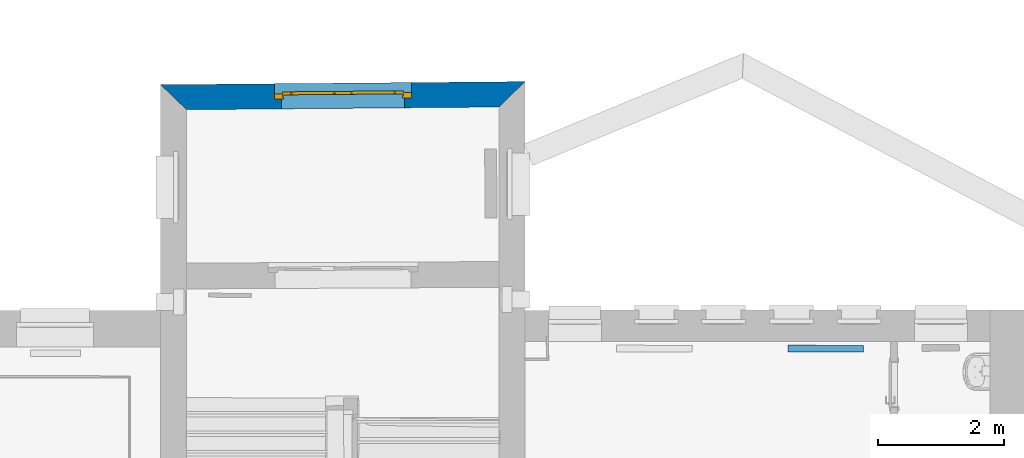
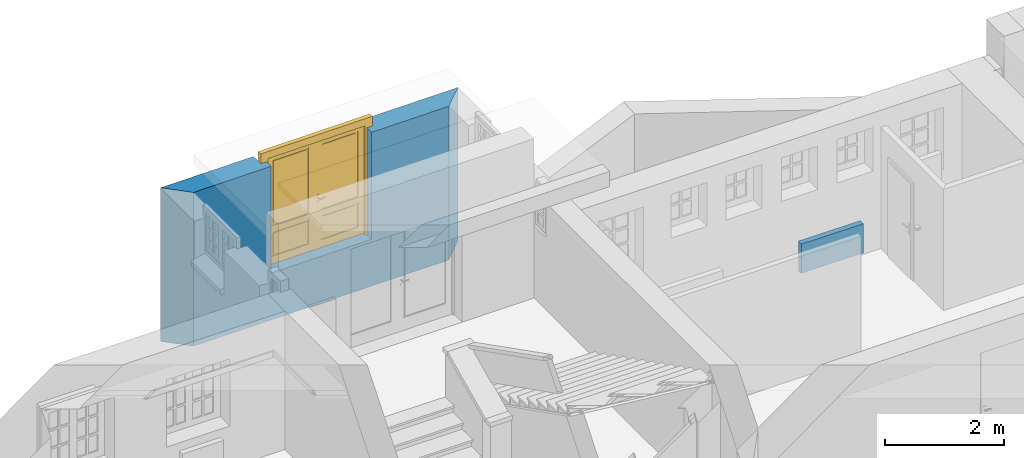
# One storey, part 45 of 196: 2 walls, 1 door, 1 opening.
"""IFC2X3 building model written with IfcOpenShell, lengths in metres."""

from ifc_helpers import new_model, entity, si_unit, converted_unit, derived_unit, money_unit, direction, frame, origin_with_axes, origin_2d_with_axis, place, context, subcontext, project, spatial, polyline, rectangle, outline, extrude, open_shell, faceted_brep, surface_model, source, transform, mapped, material, layer, layer_set, layer_usage, type_object, element, fill, save


model = new_model("IFC2X3")

# Units and contexts
model_context = context("Model", 3, precision=1e-05, world=origin_with_axes(), true_north=direction((0.0, 1.0)))
body_context = subcontext(model_context, "Body", "Model", "MODEL_VIEW")
ifc_project = project(units=[si_unit("LENGTHUNIT", "METRE"), si_unit("AREAUNIT", "SQUARE_METRE"), si_unit("VOLUMEUNIT", "CUBIC_METRE"), converted_unit("PLANEANGLEUNIT", "DEGREE", entity("IfcPlaneAngleMeasure", 0.0174532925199), si_unit("PLANEANGLEUNIT", "RADIAN"), dimensions=[0, 0, 0, 0, 0, 0, 0]), money_unit("EUR"), converted_unit("TIMEUNIT", "Year", entity("IfcTimeMeasure", 31556926.0), si_unit("TIMEUNIT", "SECOND"), dimensions=[0, 0, 1, 0, 0, 0, 0]), si_unit("MASSUNIT", "GRAM", prefix="KILO"), si_unit("THERMODYNAMICTEMPERATUREUNIT", "DEGREE_CELSIUS"), si_unit("LUMINOUSINTENSITYUNIT", "LUMEN"), si_unit("ENERGYUNIT", "JOULE", prefix="MEGA"), derived_unit("THERMALCONDUCTANCEUNIT", [(si_unit("POWERUNIT", "WATT"), 1), (si_unit("LENGTHUNIT", "METRE"), -1), (si_unit("THERMODYNAMICTEMPERATUREUNIT", "KELVIN"), -1)]), derived_unit("SPECIFICHEATCAPACITYUNIT", [(si_unit("ENERGYUNIT", "JOULE"), 1), (si_unit("MASSUNIT", "GRAM", prefix="KILO"), -1), (si_unit("THERMODYNAMICTEMPERATUREUNIT", "KELVIN"), -1)]), derived_unit("MASSDENSITYUNIT", [(si_unit("MASSUNIT", "GRAM", prefix="KILO"), 1), (si_unit("VOLUMEUNIT", "CUBIC_METRE"), -1)])], contexts=[model_context])

# Site, building, storey
site_placement = place(None, origin_with_axes())
site = spatial("IfcSite", under=ifc_project, at=site_placement, Name="Gelände", CompositionType="ELEMENT")
building_placement = place(site_placement, origin_with_axes())
building = spatial("IfcBuilding", under=site, at=building_placement, Name="Gebäude", CompositionType="ELEMENT")
storey_placement = place(building_placement, frame((0.0, 0.0, -3.0), z_axis=(0.0, 0.0, 1.0), x_axis=(1.0, 0.0, 0.0)))
storey = spatial("IfcBuildingStorey", under=building, at=storey_placement, Name="KELLERGESCHOSS", CompositionType="ELEMENT", Elevation=-3.0)

# Wall, opening, door
ifc_material_1 = material(Name="05_ALLGEMEIN - TRAGENDE BAUTEILE")
ifc_layer_1 = layer(ifc_material_1, 0.4, ventilated="UNKNOWN")
ifc_layer_set_1 = layer_set([ifc_layer_1], Name="05_ALLGEMEIN - TRAGENDE BAUTEILE 0.4")
ifc_layer_usage_1 = layer_usage(ifc_layer_set_1, "AXIS2", "NEGATIVE", 0.4)
wall_type_1 = type_object("IfcWallType", Name="05_ALLGEMEIN - TRAGENDE BAUTEILE 400", PredefinedType="ELEMENTEDWALL")
wall_1_placement = place(storey_placement, frame((-4.46072378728, 29.7419939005, -0.36), z_axis=(0.0, 0.0, 1.0), x_axis=(-0.999963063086, -0.00859490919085, 0.0)))
wall_1 = element("IfcWallStandardCase", 1, at=wall_1_placement, inside=storey, type_object=wall_type_1, material=ifc_layer_usage_1, Name="Wand-029", ObjectType="ELEMENTEDWALL", context=body_context, shape_type="SweptSolid", body=[
    extrude(outline(polyline([(0.0, 0.0), (5.79195264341, 0.0), (5.38533826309, 0.4), (0.413631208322, 0.4), (0.0, 0.0)])), origin_with_axes(), (0.0, 0.0, 1.0), 3.15),
])
opening_placement = place(wall_1_placement, frame((2.89525343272, 0.0, 0.96), z_axis=(0.0, 0.0, 1.0), x_axis=(1.0, 0.0, 0.0)))
opening = element("IfcOpeningElement", 2, at=opening_placement, cuts=wall_1, Name="Tür-023", context=body_context, shape_type="SweptSolid", body=[
    extrude(rectangle(XDim=2.17837008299, YDim=2.38809052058, at=origin_2d_with_axis()), frame((0.0, 0.16, 1.19404526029), z_axis=(0.0, 1.0, 0.0), x_axis=(-1.0, 0.0, 0.0)), (0.0, 0.0, -1.0), 0.56),
    extrude(rectangle(XDim=1.95837008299, YDim=2.25809052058, at=origin_2d_with_axis()), frame((0.0, 0.245, 1.12904526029), z_axis=(0.0, -1.0, 0.0), x_axis=(-1.0, 0.0, 0.0)), (0.0, 0.0, -1.0), 0.555),
    extrude(rectangle(XDim=2.17837008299, YDim=2.38809052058, at=origin_2d_with_axis()), frame((0.0, 0.16, 1.19404526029), z_axis=(0.0, 1.0, 0.0), x_axis=(-1.0, 0.0, 0.0)), (0.0, 0.0, 1.0), 0.085),
])
door_style = type_object("IfcDoorStyle", Name="Blockrahmentür 2-Fl 25", ConstructionType="NOTDEFINED", OperationType="DOUBLE_DOOR_SINGLE_SWING", ParameterTakesPrecedence=False, Sizeable=False)
shared_shape = source(origin_with_axes(), body_context, "Body", "SurfaceModel", [
    faceted_brep([(1.0891850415, -0.085, 0.0), (1.0891850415, -0.048, 0.0), (1.0891850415, -0.048, 2.38809052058), (1.0891850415, -0.085, 2.38809052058), (0.944185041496, -0.085, 0.0), (0.944185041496, -0.048, 0.0), (0.944185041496, -0.048, 2.24309052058), (0.1151, -0.048, 2.24309052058), (0.0001, -0.048, 2.24309052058), (-0.944185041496, -0.048, 2.24309052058), (-0.944185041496, -0.048, 0.0), (-1.0891850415, -0.048, 0.0), (-1.0891850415, -0.048, 2.38809052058), (-1.0891850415, -0.085, 2.38809052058), (-1.0891850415, -0.085, 0.0), (-0.944185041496, -0.085, 0.0), (-0.944185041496, -0.085, 2.24309052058), (0.0001, -0.085, 2.24309052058), (0.1151, -0.085, 2.24309052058), (0.944185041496, -0.085, 2.24309052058)], [[[0, 1, 2, 3]], [[4, 5, 1, 0]], [[1, 5, 6, 7, 8, 9, 10, 11, 12, 2]], [[3, 2, 12, 13]], [[0, 3, 13, 14, 15, 16, 17, 18, 19, 4]], [[19, 6, 5, 4]], [[18, 7, 6, 19]], [[17, 8, 7, 18]], [[16, 9, 8, 17]], [[15, 10, 9, 16]], [[14, 11, 10, 15]], [[13, 12, 11, 14]]]),
    faceted_brep([(1.0891850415, -0.048, 0.0), (1.0891850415, 0.0, 0.0), (1.0891850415, 0.0, 2.38809052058), (1.0891850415, -0.048, 2.38809052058), (0.959185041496, -0.048, 0.0), (0.959185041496, 0.0, 0.0), (0.959185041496, 0.0, 2.25809052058), (0.1001, 0.0, 2.25809052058), (0.0151, 0.0, 2.25809052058), (-0.959185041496, 0.0, 2.25809052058), (-0.959185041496, 0.0, 0.0), (-1.0891850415, 0.0, 0.0), (-1.0891850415, 0.0, 2.38809052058), (-1.0891850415, -0.048, 2.38809052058), (-1.0891850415, -0.048, 0.0), (-0.959185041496, -0.048, 0.0), (-0.959185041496, -0.048, 2.25809052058), (0.0151, -0.048, 2.25809052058), (0.1001, -0.048, 2.25809052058), (0.959185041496, -0.048, 2.25809052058)], [[[0, 1, 2, 3]], [[4, 5, 1, 0]], [[1, 5, 6, 7, 8, 9, 10, 11, 12, 2]], [[3, 2, 12, 13]], [[0, 3, 13, 14, 15, 16, 17, 18, 19, 4]], [[19, 6, 5, 4]], [[18, 7, 6, 19]], [[17, 8, 7, 18]], [[16, 9, 8, 17]], [[15, 10, 9, 16]], [[14, 11, 10, 15]], [[13, 12, 11, 14]]]),
    faceted_brep([(0.0005, 0.03, 0.0), (0.959185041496, 0.03, 0.0), (0.959185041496, -0.018, 0.0), (0.0005, -0.018, 0.0), (0.0005, 0.03, 2.25809052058), (0.959185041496, 0.03, 2.25809052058), (0.1205, 0.03, 0.16), (0.839185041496, 0.03, 0.16), (0.839185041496, 0.03, 0.665), (0.1205, 0.03, 0.665), (0.1205, 0.03, 0.785), (0.839185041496, 0.03, 0.785), (0.839185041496, 0.03, 2.13809052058), (0.1205, 0.03, 2.13809052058), (0.959185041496, -0.018, 2.25809052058), (0.0005, -0.018, 2.25809052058), (0.1205, -0.018, 0.16), (0.1205, -0.018, 0.665), (0.839185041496, -0.018, 0.665), (0.839185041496, -0.018, 0.16), (0.1205, -0.018, 0.785), (0.1205, -0.018, 2.13809052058), (0.839185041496, -0.018, 2.13809052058), (0.839185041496, -0.018, 0.785)], [[[0, 1, 2, 3]], [[0, 4, 5, 1], [6, 7, 8, 9], [10, 11, 12, 13]], [[1, 5, 14, 2]], [[3, 2, 14, 15], [16, 17, 18, 19], [20, 21, 22, 23]], [[4, 0, 3, 15]], [[5, 4, 15, 14]], [[7, 6, 16, 19]], [[8, 7, 19, 18]], [[9, 8, 18, 17]], [[6, 9, 17, 16]], [[11, 10, 20, 23]], [[12, 11, 23, 22]], [[13, 12, 22, 21]], [[10, 13, 21, 20]]]),
    faceted_brep([(0.1555, 0.03, 0.195), (0.804185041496, 0.03, 0.195), (0.804185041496, -0.018, 0.195), (0.1555, -0.018, 0.195), (0.1555, 0.03, 0.63), (0.804185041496, 0.03, 0.63), (0.804185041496, -0.018, 0.63), (0.1555, -0.018, 0.63)], [[[0, 1, 2, 3]], [[0, 4, 5, 1]], [[1, 5, 6, 2]], [[3, 2, 6, 7]], [[4, 0, 3, 7]], [[5, 4, 7, 6]]]),
    faceted_brep([(0.1555, 0.03, 0.82), (0.804185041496, 0.03, 0.82), (0.804185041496, -0.018, 0.82), (0.1555, -0.018, 0.82), (0.1555, 0.03, 2.10309052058), (0.804185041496, 0.03, 2.10309052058), (0.804185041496, -0.018, 2.10309052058), (0.1555, -0.018, 2.10309052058)], [[[0, 1, 2, 3]], [[0, 4, 5, 1]], [[1, 5, 6, 2]], [[3, 2, 6, 7]], [[4, 0, 3, 7]], [[5, 4, 7, 6]]]),
    faceted_brep([(0.1205, 0.0175, 0.16), (0.839185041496, 0.0175, 0.16), (0.839185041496, -0.0055, 0.16), (0.1205, -0.0055, 0.16), (0.1205, 0.0175, 0.665), (0.839185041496, 0.0175, 0.665), (0.1555, 0.0175, 0.195), (0.804185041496, 0.0175, 0.195), (0.804185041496, 0.0175, 0.63), (0.1555, 0.0175, 0.63), (0.839185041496, -0.0055, 0.665), (0.1205, -0.0055, 0.665), (0.1555, -0.0055, 0.195), (0.1555, -0.0055, 0.63), (0.804185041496, -0.0055, 0.63), (0.804185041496, -0.0055, 0.195)], [[[0, 1, 2, 3]], [[0, 4, 5, 1], [6, 7, 8, 9]], [[1, 5, 10, 2]], [[3, 2, 10, 11], [12, 13, 14, 15]], [[4, 0, 3, 11]], [[5, 4, 11, 10]], [[7, 6, 12, 15]], [[8, 7, 15, 14]], [[9, 8, 14, 13]], [[6, 9, 13, 12]]]),
    faceted_brep([(0.1205, 0.0175, 0.785), (0.839185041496, 0.0175, 0.785), (0.839185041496, -0.0055, 0.785), (0.1205, -0.0055, 0.785), (0.1205, 0.0175, 2.13809052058), (0.839185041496, 0.0175, 2.13809052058), (0.1555, 0.0175, 0.82), (0.804185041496, 0.0175, 0.82), (0.804185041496, 0.0175, 2.10309052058), (0.1555, 0.0175, 2.10309052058), (0.839185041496, -0.0055, 2.13809052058), (0.1205, -0.0055, 2.13809052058), (0.1555, -0.0055, 0.82), (0.1555, -0.0055, 2.10309052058), (0.804185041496, -0.0055, 2.10309052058), (0.804185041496, -0.0055, 0.82)], [[[0, 1, 2, 3]], [[0, 4, 5, 1], [6, 7, 8, 9]], [[1, 5, 10, 2]], [[3, 2, 10, 11], [12, 13, 14, 15]], [[4, 0, 3, 11]], [[5, 4, 11, 10]], [[7, 6, 12, 15]], [[8, 7, 15, 14]], [[9, 8, 14, 13]], [[6, 9, 13, 12]]]),
    faceted_brep([(0.032, -0.018, 1.11), (0.032, -0.021, 1.11), (0.089, -0.021, 1.11), (0.089, -0.018, 1.11), (0.032, -0.018, 0.92), (0.032, -0.021, 0.92), (0.089, -0.021, 0.92), (0.089, -0.018, 0.92)], [[[0, 1, 2, 3]], [[4, 5, 1, 0]], [[1, 5, 6, 2]], [[3, 2, 6, 7]], [[0, 3, 7, 4]], [[7, 6, 5, 4]]]),
    faceted_brep([(0.0605, -0.082, 1.04), (0.0605, -0.089, 1.04), (0.0555, -0.089, 1.04133974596), (0.0555, -0.082, 1.04133974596), (0.0855, -0.082, 1.04), (0.0855, -0.089, 1.04), (0.0855, -0.089, 1.06), (0.0605, -0.089, 1.06), (0.0555, -0.089, 1.05866025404), (0.0518397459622, -0.089, 1.055), (0.0505, -0.089, 1.05), (0.0518397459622, -0.089, 1.045), (0.0518397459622, -0.082, 1.045), (0.0505, -0.082, 1.05), (0.0518397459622, -0.082, 1.055), (0.0555, -0.082, 1.05866025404), (0.0605, -0.082, 1.06), (0.0855, -0.082, 1.06)], [[[0, 1, 2, 3]], [[4, 5, 1, 0]], [[1, 5, 6, 7, 8, 9, 10, 11, 2]], [[3, 2, 11, 12]], [[0, 3, 12, 13, 14, 15, 16, 17, 4]], [[17, 6, 5, 4]], [[16, 7, 6, 17]], [[15, 8, 7, 16]], [[14, 9, 8, 15]], [[13, 10, 9, 14]], [[12, 11, 10, 13]]]),
    surface_model("IfcShellBasedSurfaceModel", [(0.0855, -0.082, 1.06), (0.0989039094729, -0.089, 1.05960730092), (0.0985982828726, -0.082, 1.05960730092), (0.0855, -0.089, 1.06), (0.125609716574, -0.0866635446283, 1.05882190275), (0.0985982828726, -0.082, 1.04039269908), (0.0855, -0.082, 1.04), (0.0855, -0.089, 1.04), (0.0989039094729, -0.089, 1.04039269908), (0.125609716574, -0.0866635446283, 1.04117809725), (0.124695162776, -0.079716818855, 1.05882190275), (0.124695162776, -0.079716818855, 1.04117809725), (0.152010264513, -0.0820084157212, 1.04196349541), (0.152010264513, -0.0820084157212, 1.05803650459), (0.150493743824, -0.0751678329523, 1.05803650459), (0.150493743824, -0.0751678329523, 1.04196349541), (0.17790462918, -0.0750700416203, 1.04274889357), (0.17790462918, -0.0750700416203, 1.05725110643), (0.175797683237, -0.0683876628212, 1.05725110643), (0.175797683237, -0.0683876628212, 1.04274889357), (0.185961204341, -0.0721376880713, 1.043), (0.185961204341, -0.0721376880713, 1.057), (0.183670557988, -0.0655221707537, 1.057), (0.183670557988, -0.0655221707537, 1.043)], [open_shell([[[0, 1, 2]], [[0, 3, 1]], [[2, 1, 4]], [[0, 2, 5, 6]], [[3, 7, 8, 1]], [[1, 8, 9, 4]], [[2, 4, 10]], [[2, 10, 11, 5]], [[5, 7, 6]], [[5, 8, 7]], [[11, 9, 8]], [[4, 9, 12, 13]], [[10, 4, 13]], [[10, 14, 15, 11]], [[11, 8, 5]], [[15, 9, 11]], [[15, 12, 9]], [[13, 12, 16, 17]], [[10, 13, 14]], [[14, 18, 19, 15]], [[19, 12, 15]], [[19, 16, 12]], [[17, 16, 20, 21]], [[14, 13, 17]], [[14, 17, 18]], [[18, 22, 23, 19]], [[23, 16, 19]], [[23, 20, 16]], [[22, 21, 20, 23]], [[18, 17, 21]], [[18, 21, 22]]])]),
    faceted_brep([(0.0708923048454, -0.031, 1.044), (0.0717583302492, -0.021, 1.0435), (0.0735, -0.021, 1.05), (0.0725, -0.031, 1.05), (0.0665, -0.031, 1.03960769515), (0.067, -0.021, 1.03874166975), (0.0605, -0.021, 1.037), (0.054, -0.021, 1.03874166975), (0.0492416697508, -0.021, 1.0435), (0.0475, -0.021, 1.05), (0.0492416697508, -0.021, 1.0565), (0.054, -0.021, 1.06125833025), (0.0605, -0.021, 1.063), (0.067, -0.021, 1.06125833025), (0.0717583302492, -0.021, 1.0565), (0.0708923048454, -0.031, 1.056), (0.0665, -0.031, 1.06039230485), (0.0605, -0.031, 1.062), (0.0545, -0.031, 1.06039230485), (0.0501076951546, -0.031, 1.056), (0.0485, -0.031, 1.05), (0.0501076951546, -0.031, 1.044), (0.0545, -0.031, 1.03960769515), (0.0605, -0.031, 1.038)], [[[0, 1, 2, 3]], [[4, 5, 1, 0]], [[2, 1, 5, 6, 7, 8, 9, 10, 11, 12, 13, 14]], [[3, 2, 14, 15]], [[3, 15, 16, 17, 18, 19, 20, 21, 22, 23, 4, 0]], [[23, 6, 5, 4]], [[22, 7, 6, 23]], [[21, 8, 7, 22]], [[20, 9, 8, 21]], [[19, 10, 9, 20]], [[18, 11, 10, 19]], [[17, 12, 11, 18]], [[16, 13, 12, 17]], [[15, 14, 13, 16]]]),
    faceted_brep([(0.0778205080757, -0.025, 0.945), (0.0795525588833, -0.021, 0.944), (0.0825, -0.021, 0.955), (0.0805, -0.025, 0.955), (0.0705, -0.025, 0.937679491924), (0.0715, -0.021, 0.935947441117), (0.0605, -0.021, 0.933), (0.0495, -0.021, 0.935947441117), (0.0414474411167, -0.021, 0.944), (0.0385, -0.021, 0.955), (0.0414474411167, -0.021, 0.966), (0.0495, -0.021, 0.974052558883), (0.0605, -0.021, 0.977), (0.0715, -0.021, 0.974052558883), (0.0795525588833, -0.021, 0.966), (0.0778205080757, -0.025, 0.965), (0.0705, -0.025, 0.972320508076), (0.0605, -0.025, 0.975), (0.0505, -0.025, 0.972320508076), (0.0431794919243, -0.025, 0.965), (0.0405, -0.025, 0.955), (0.0431794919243, -0.025, 0.945), (0.0505, -0.025, 0.937679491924), (0.0605, -0.025, 0.935)], [[[0, 1, 2, 3]], [[4, 5, 1, 0]], [[2, 1, 5, 6, 7, 8, 9, 10, 11, 12, 13, 14]], [[3, 2, 14, 15]], [[3, 15, 16, 17, 18, 19, 20, 21, 22, 23, 4, 0]], [[23, 6, 5, 4]], [[22, 7, 6, 23]], [[21, 8, 7, 22]], [[20, 9, 8, 21]], [[19, 10, 9, 20]], [[18, 11, 10, 19]], [[17, 12, 11, 18]], [[16, 13, 12, 17]], [[15, 14, 13, 16]]]),
    faceted_brep([(0.0654497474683, -0.027, 0.959050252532), (0.0661568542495, -0.025, 0.958343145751), (0.0685, -0.025, 0.964), (0.0675, -0.027, 0.964), (0.0605, -0.027, 0.957), (0.0605, -0.025, 0.956), (0.0548431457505, -0.025, 0.958343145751), (0.0525, -0.025, 0.964), (0.0548431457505, -0.025, 0.969656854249), (0.0605, -0.025, 0.972), (0.0661568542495, -0.025, 0.969656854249), (0.0654497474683, -0.027, 0.968949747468), (0.0605, -0.027, 0.971), (0.0555502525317, -0.027, 0.968949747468), (0.0535, -0.027, 0.964), (0.0555502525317, -0.027, 0.959050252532)], [[[0, 1, 2, 3]], [[4, 5, 1, 0]], [[2, 1, 5, 6, 7, 8, 9, 10]], [[3, 2, 10, 11]], [[3, 11, 12, 13, 14, 15, 4, 0]], [[15, 6, 5, 4]], [[14, 7, 6, 15]], [[13, 8, 7, 14]], [[12, 9, 8, 13]], [[11, 10, 9, 12]]]),
    faceted_brep([(0.0605, -0.031, 1.06), (0.0605, -0.082, 1.06), (0.0655, -0.082, 1.05866025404), (0.0655, -0.031, 1.05866025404), (0.0555, -0.031, 1.05866025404), (0.0555, -0.082, 1.05866025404), (0.0518397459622, -0.082, 1.055), (0.0505, -0.082, 1.05), (0.0518397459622, -0.082, 1.045), (0.0555, -0.082, 1.04133974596), (0.0605, -0.082, 1.04), (0.0655, -0.082, 1.04133974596), (0.0691602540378, -0.082, 1.045), (0.0705, -0.082, 1.05), (0.0691602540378, -0.082, 1.055), (0.0691602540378, -0.031, 1.055), (0.0705, -0.031, 1.05), (0.0691602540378, -0.031, 1.045), (0.0655, -0.031, 1.04133974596), (0.0605, -0.031, 1.04), (0.0555, -0.031, 1.04133974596), (0.0518397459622, -0.031, 1.045), (0.0505, -0.031, 1.05), (0.0518397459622, -0.031, 1.055)], [[[0, 1, 2, 3]], [[4, 5, 1, 0]], [[1, 5, 6, 7, 8, 9, 10, 11, 12, 13, 14, 2]], [[3, 2, 14, 15]], [[0, 3, 15, 16, 17, 18, 19, 20, 21, 22, 23, 4]], [[23, 6, 5, 4]], [[22, 7, 6, 23]], [[21, 8, 7, 22]], [[20, 9, 8, 21]], [[19, 10, 9, 20]], [[18, 11, 10, 19]], [[17, 12, 11, 18]], [[16, 13, 12, 17]], [[15, 14, 13, 16]]]),
    faceted_brep([(0.032, 0.03, 1.11), (0.089, 0.03, 1.11), (0.089, 0.033, 1.11), (0.032, 0.033, 1.11), (0.032, 0.03, 0.92), (0.089, 0.03, 0.92), (0.089, 0.033, 0.92), (0.032, 0.033, 0.92)], [[[0, 1, 2, 3]], [[0, 4, 5, 1]], [[1, 5, 6, 2]], [[3, 2, 6, 7]], [[4, 0, 3, 7]], [[5, 4, 7, 6]]]),
    faceted_brep([(0.0605, 0.094, 1.04), (0.0555, 0.094, 1.04133974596), (0.0555, 0.101, 1.04133974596), (0.0605, 0.101, 1.04), (0.0855, 0.094, 1.04), (0.0855, 0.094, 1.06), (0.0605, 0.094, 1.06), (0.0555, 0.094, 1.05866025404), (0.0518397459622, 0.094, 1.055), (0.0505, 0.094, 1.05), (0.0518397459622, 0.094, 1.045), (0.0518397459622, 0.101, 1.045), (0.0505, 0.101, 1.05), (0.0518397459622, 0.101, 1.055), (0.0555, 0.101, 1.05866025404), (0.0605, 0.101, 1.06), (0.0855, 0.101, 1.06), (0.0855, 0.101, 1.04)], [[[0, 1, 2, 3]], [[0, 4, 5, 6, 7, 8, 9, 10, 1]], [[1, 10, 11, 2]], [[3, 2, 11, 12, 13, 14, 15, 16, 17]], [[4, 0, 3, 17]], [[5, 4, 17, 16]], [[6, 5, 16, 15]], [[7, 6, 15, 14]], [[8, 7, 14, 13]], [[9, 8, 13, 12]], [[10, 9, 12, 11]]]),
    surface_model("IfcShellBasedSurfaceModel", [(0.0855, 0.094, 1.06), (0.0985982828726, 0.094, 1.05960730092), (0.0989039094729, 0.101, 1.05960730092), (0.0855, 0.094, 1.04), (0.0985982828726, 0.094, 1.04039269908), (0.125609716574, 0.0986635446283, 1.05882190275), (0.0855, 0.101, 1.06), (0.0855, 0.101, 1.04), (0.124695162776, 0.091716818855, 1.04117809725), (0.124695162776, 0.091716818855, 1.05882190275), (0.125609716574, 0.0986635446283, 1.04117809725), (0.0989039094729, 0.101, 1.04039269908), (0.150493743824, 0.0871678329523, 1.04196349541), (0.150493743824, 0.0871678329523, 1.05803650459), (0.152010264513, 0.0940084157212, 1.05803650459), (0.152010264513, 0.0940084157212, 1.04196349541), (0.175797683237, 0.0803876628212, 1.04274889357), (0.175797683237, 0.0803876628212, 1.05725110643), (0.17790462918, 0.0870700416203, 1.05725110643), (0.17790462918, 0.0870700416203, 1.04274889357), (0.183670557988, 0.0775221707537, 1.043), (0.183670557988, 0.0775221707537, 1.057), (0.185961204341, 0.0841376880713, 1.057), (0.185961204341, 0.0841376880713, 1.043)], [open_shell([[[0, 1, 2]], [[0, 3, 4, 1]], [[1, 5, 2]], [[0, 2, 6]], [[4, 3, 7]], [[1, 4, 8, 9]], [[1, 9, 5]], [[2, 5, 10, 11]], [[6, 2, 11, 7]], [[4, 7, 11]], [[8, 4, 11]], [[9, 8, 12, 13]], [[9, 14, 5]], [[5, 14, 15, 10]], [[8, 11, 10]], [[12, 8, 10]], [[13, 12, 16, 17]], [[9, 13, 14]], [[14, 18, 19, 15]], [[12, 10, 15]], [[16, 12, 15]], [[17, 16, 20, 21]], [[13, 17, 18]], [[13, 18, 14]], [[18, 22, 23, 19]], [[16, 15, 19]], [[20, 16, 19]], [[21, 20, 23, 22]], [[17, 21, 22]], [[17, 22, 18]], [[20, 19, 23]]])]),
    faceted_brep([(0.0708923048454, 0.043, 1.044), (0.0725, 0.043, 1.05), (0.0735, 0.033, 1.05), (0.0717583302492, 0.033, 1.0435), (0.0665, 0.043, 1.03960769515), (0.0605, 0.043, 1.038), (0.0545, 0.043, 1.03960769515), (0.0501076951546, 0.043, 1.044), (0.0485, 0.043, 1.05), (0.0501076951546, 0.043, 1.056), (0.0545, 0.043, 1.06039230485), (0.0605, 0.043, 1.062), (0.0665, 0.043, 1.06039230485), (0.0708923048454, 0.043, 1.056), (0.0717583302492, 0.033, 1.0565), (0.067, 0.033, 1.06125833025), (0.0605, 0.033, 1.063), (0.054, 0.033, 1.06125833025), (0.0492416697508, 0.033, 1.0565), (0.0475, 0.033, 1.05), (0.0492416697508, 0.033, 1.0435), (0.054, 0.033, 1.03874166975), (0.0605, 0.033, 1.037), (0.067, 0.033, 1.03874166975)], [[[0, 1, 2, 3]], [[1, 0, 4, 5, 6, 7, 8, 9, 10, 11, 12, 13]], [[1, 13, 14, 2]], [[2, 14, 15, 16, 17, 18, 19, 20, 21, 22, 23, 3]], [[4, 0, 3, 23]], [[5, 4, 23, 22]], [[6, 5, 22, 21]], [[7, 6, 21, 20]], [[8, 7, 20, 19]], [[9, 8, 19, 18]], [[10, 9, 18, 17]], [[11, 10, 17, 16]], [[12, 11, 16, 15]], [[13, 12, 15, 14]]]),
    faceted_brep([(0.0778205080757, 0.037, 0.945), (0.0805, 0.037, 0.955), (0.0825, 0.033, 0.955), (0.0795525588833, 0.033, 0.944), (0.0705, 0.037, 0.937679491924), (0.0605, 0.037, 0.935), (0.0505, 0.037, 0.937679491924), (0.0431794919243, 0.037, 0.945), (0.0405, 0.037, 0.955), (0.0431794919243, 0.037, 0.965), (0.0505, 0.037, 0.972320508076), (0.0605, 0.037, 0.975), (0.0705, 0.037, 0.972320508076), (0.0778205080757, 0.037, 0.965), (0.0795525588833, 0.033, 0.966), (0.0715, 0.033, 0.974052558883), (0.0605, 0.033, 0.977), (0.0495, 0.033, 0.974052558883), (0.0414474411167, 0.033, 0.966), (0.0385, 0.033, 0.955), (0.0414474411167, 0.033, 0.944), (0.0495, 0.033, 0.935947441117), (0.0605, 0.033, 0.933), (0.0715, 0.033, 0.935947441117)], [[[0, 1, 2, 3]], [[1, 0, 4, 5, 6, 7, 8, 9, 10, 11, 12, 13]], [[1, 13, 14, 2]], [[2, 14, 15, 16, 17, 18, 19, 20, 21, 22, 23, 3]], [[4, 0, 3, 23]], [[5, 4, 23, 22]], [[6, 5, 22, 21]], [[7, 6, 21, 20]], [[8, 7, 20, 19]], [[9, 8, 19, 18]], [[10, 9, 18, 17]], [[11, 10, 17, 16]], [[12, 11, 16, 15]], [[13, 12, 15, 14]]]),
    faceted_brep([(0.0654497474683, 0.039, 0.959050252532), (0.0675, 0.039, 0.964), (0.0685, 0.037, 0.964), (0.0661568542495, 0.037, 0.958343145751), (0.0605, 0.039, 0.957), (0.0555502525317, 0.039, 0.959050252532), (0.0535, 0.039, 0.964), (0.0555502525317, 0.039, 0.968949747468), (0.0605, 0.039, 0.971), (0.0654497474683, 0.039, 0.968949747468), (0.0661568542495, 0.037, 0.969656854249), (0.0605, 0.037, 0.972), (0.0548431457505, 0.037, 0.969656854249), (0.0525, 0.037, 0.964), (0.0548431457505, 0.037, 0.958343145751), (0.0605, 0.037, 0.956)], [[[0, 1, 2, 3]], [[1, 0, 4, 5, 6, 7, 8, 9]], [[1, 9, 10, 2]], [[2, 10, 11, 12, 13, 14, 15, 3]], [[4, 0, 3, 15]], [[5, 4, 15, 14]], [[6, 5, 14, 13]], [[7, 6, 13, 12]], [[8, 7, 12, 11]], [[9, 8, 11, 10]]]),
    faceted_brep([(0.0605, 0.043, 1.06), (0.0655, 0.043, 1.05866025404), (0.0655, 0.094, 1.05866025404), (0.0605, 0.094, 1.06), (0.0555, 0.043, 1.05866025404), (0.0518397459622, 0.043, 1.055), (0.0505, 0.043, 1.05), (0.0518397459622, 0.043, 1.045), (0.0555, 0.043, 1.04133974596), (0.0605, 0.043, 1.04), (0.0655, 0.043, 1.04133974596), (0.0691602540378, 0.043, 1.045), (0.0705, 0.043, 1.05), (0.0691602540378, 0.043, 1.055), (0.0691602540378, 0.094, 1.055), (0.0705, 0.094, 1.05), (0.0691602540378, 0.094, 1.045), (0.0655, 0.094, 1.04133974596), (0.0605, 0.094, 1.04), (0.0555, 0.094, 1.04133974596), (0.0518397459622, 0.094, 1.045), (0.0505, 0.094, 1.05), (0.0518397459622, 0.094, 1.055), (0.0555, 0.094, 1.05866025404)], [[[0, 1, 2, 3]], [[0, 4, 5, 6, 7, 8, 9, 10, 11, 12, 13, 1]], [[1, 13, 14, 2]], [[3, 2, 14, 15, 16, 17, 18, 19, 20, 21, 22, 23]], [[4, 0, 3, 23]], [[5, 4, 23, 22]], [[6, 5, 22, 21]], [[7, 6, 21, 20]], [[8, 7, 20, 19]], [[9, 8, 19, 18]], [[10, 9, 18, 17]], [[11, 10, 17, 16]], [[12, 11, 16, 15]], [[13, 12, 15, 14]]]),
    faceted_brep([(-0.0005, 0.03, 0.0), (-0.0005, -0.018, 0.0), (-0.959185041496, -0.018, 0.0), (-0.959185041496, 0.03, 0.0), (-0.0005, 0.03, 2.25809052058), (-0.0005, -0.018, 2.25809052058), (-0.959185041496, -0.018, 2.25809052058), (-0.1205, -0.018, 0.16), (-0.839185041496, -0.018, 0.16), (-0.839185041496, -0.018, 0.665), (-0.1205, -0.018, 0.665), (-0.1205, -0.018, 0.785), (-0.839185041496, -0.018, 0.785), (-0.839185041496, -0.018, 2.13809052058), (-0.1205, -0.018, 2.13809052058), (-0.959185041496, 0.03, 2.25809052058), (-0.1205, 0.03, 0.16), (-0.1205, 0.03, 0.665), (-0.839185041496, 0.03, 0.665), (-0.839185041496, 0.03, 0.16), (-0.1205, 0.03, 0.785), (-0.1205, 0.03, 2.13809052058), (-0.839185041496, 0.03, 2.13809052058), (-0.839185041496, 0.03, 0.785)], [[[0, 1, 2, 3]], [[4, 5, 1, 0]], [[1, 5, 6, 2], [7, 8, 9, 10], [11, 12, 13, 14]], [[3, 2, 6, 15]], [[0, 3, 15, 4], [16, 17, 18, 19], [20, 21, 22, 23]], [[15, 6, 5, 4]], [[19, 8, 7, 16]], [[18, 9, 8, 19]], [[17, 10, 9, 18]], [[16, 7, 10, 17]], [[23, 12, 11, 20]], [[22, 13, 12, 23]], [[21, 14, 13, 22]], [[20, 11, 14, 21]]]),
    faceted_brep([(-0.1555, 0.03, 0.195), (-0.1555, -0.018, 0.195), (-0.804185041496, -0.018, 0.195), (-0.804185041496, 0.03, 0.195), (-0.1555, 0.03, 0.63), (-0.1555, -0.018, 0.63), (-0.804185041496, -0.018, 0.63), (-0.804185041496, 0.03, 0.63)], [[[0, 1, 2, 3]], [[4, 5, 1, 0]], [[1, 5, 6, 2]], [[3, 2, 6, 7]], [[0, 3, 7, 4]], [[7, 6, 5, 4]]]),
    faceted_brep([(-0.1555, 0.03, 0.82), (-0.1555, -0.018, 0.82), (-0.804185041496, -0.018, 0.82), (-0.804185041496, 0.03, 0.82), (-0.1555, 0.03, 2.10309052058), (-0.1555, -0.018, 2.10309052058), (-0.804185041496, -0.018, 2.10309052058), (-0.804185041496, 0.03, 2.10309052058)], [[[0, 1, 2, 3]], [[4, 5, 1, 0]], [[1, 5, 6, 2]], [[3, 2, 6, 7]], [[0, 3, 7, 4]], [[7, 6, 5, 4]]]),
    faceted_brep([(-0.1205, 0.0175, 0.16), (-0.1205, -0.0055, 0.16), (-0.839185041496, -0.0055, 0.16), (-0.839185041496, 0.0175, 0.16), (-0.1205, 0.0175, 0.665), (-0.1205, -0.0055, 0.665), (-0.839185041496, -0.0055, 0.665), (-0.1555, -0.0055, 0.195), (-0.804185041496, -0.0055, 0.195), (-0.804185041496, -0.0055, 0.63), (-0.1555, -0.0055, 0.63), (-0.839185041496, 0.0175, 0.665), (-0.1555, 0.0175, 0.195), (-0.1555, 0.0175, 0.63), (-0.804185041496, 0.0175, 0.63), (-0.804185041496, 0.0175, 0.195)], [[[0, 1, 2, 3]], [[4, 5, 1, 0]], [[1, 5, 6, 2], [7, 8, 9, 10]], [[3, 2, 6, 11]], [[0, 3, 11, 4], [12, 13, 14, 15]], [[11, 6, 5, 4]], [[15, 8, 7, 12]], [[14, 9, 8, 15]], [[13, 10, 9, 14]], [[12, 7, 10, 13]]]),
    faceted_brep([(-0.1205, 0.0175, 0.785), (-0.1205, -0.0055, 0.785), (-0.839185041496, -0.0055, 0.785), (-0.839185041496, 0.0175, 0.785), (-0.1205, 0.0175, 2.13809052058), (-0.1205, -0.0055, 2.13809052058), (-0.839185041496, -0.0055, 2.13809052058), (-0.1555, -0.0055, 0.82), (-0.804185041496, -0.0055, 0.82), (-0.804185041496, -0.0055, 2.10309052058), (-0.1555, -0.0055, 2.10309052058), (-0.839185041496, 0.0175, 2.13809052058), (-0.1555, 0.0175, 0.82), (-0.1555, 0.0175, 2.10309052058), (-0.804185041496, 0.0175, 2.10309052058), (-0.804185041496, 0.0175, 0.82)], [[[0, 1, 2, 3]], [[4, 5, 1, 0]], [[1, 5, 6, 2], [7, 8, 9, 10]], [[3, 2, 6, 11]], [[0, 3, 11, 4], [12, 13, 14, 15]], [[11, 6, 5, 4]], [[15, 8, 7, 12]], [[14, 9, 8, 15]], [[13, 10, 9, 14]], [[12, 7, 10, 13]]]),
])
door_placement = place(opening_placement, frame((0.944185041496, 0.0, 0.0), z_axis=(0.0, 0.0, 1.0), x_axis=(-1.0, 0.0, 0.0)))
door = element("IfcDoor", 3, at=door_placement, inside=storey, type_object=door_style, Name="Tür-023", ObjectType="NOTDEFINED", OverallHeight=2.38809, OverallWidth=2.17837, context=body_context, shape_type="MappedRepresentation", body=[
    mapped(shared_shape, transform((0.944185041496, -0.16, 0.0))),
])
fill(opening, door)

# Wall
ifc_material_2 = material(Name="01_ALLGEMEIN - BAUTEIL")
ifc_layer_2 = layer(ifc_material_2, 0.105, ventilated="UNKNOWN")
ifc_layer_set_2 = layer_set([ifc_layer_2], Name="01_ALLGEMEIN - BAUTEIL 0.105")
ifc_layer_usage_2 = layer_usage(ifc_layer_set_2, "AXIS2", "NEGATIVE", 0.0)
wall_type_2 = type_object("IfcWallType", Name="01_ALLGEMEIN - BAUTEIL 105", PredefinedType="ELEMENTEDWALL")
wall_2_placement = place(storey_placement, frame((0.915999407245, 25.445071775, 0.119711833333), z_axis=(0.0, 0.0, 1.0), x_axis=(-0.999995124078, 0.00312279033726, 0.0)))
element("IfcWallStandardCase", 4, at=wall_2_placement, inside=storey, type_object=wall_type_2, material=ifc_layer_usage_2, Name="Wand-036", ObjectType="ELEMENTEDWALL", context=body_context, shape_type="SweptSolid", body=[
    extrude(outline(polyline([(0.0, -0.105), (1.20052188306, -0.105), (1.20052188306, 0.0), (0.0, 0.0), (0.0, -0.105)])), origin_with_axes(), (0.0, 0.0, 1.0), 0.598198),
])

save(model, "model.ifc")
